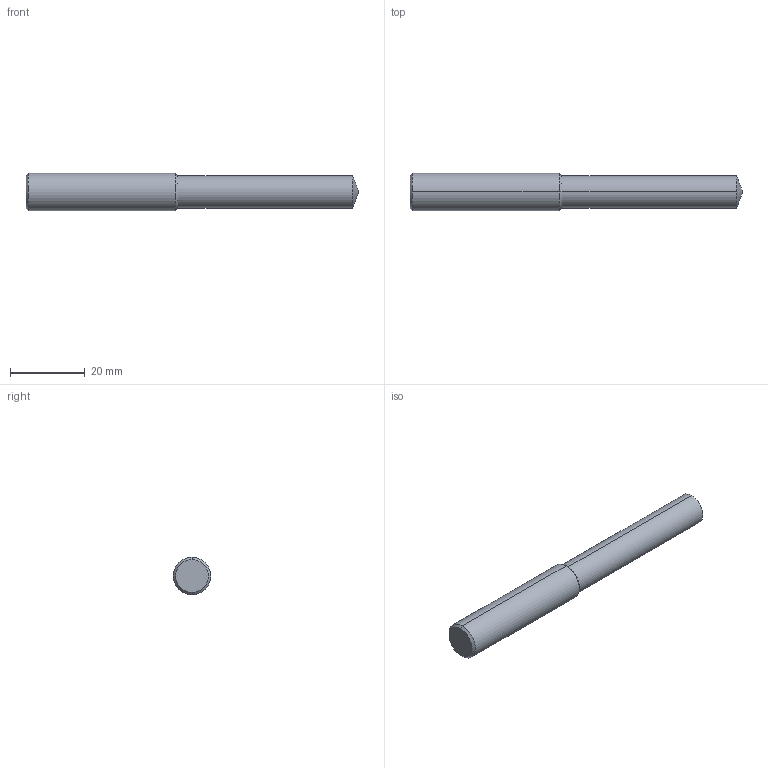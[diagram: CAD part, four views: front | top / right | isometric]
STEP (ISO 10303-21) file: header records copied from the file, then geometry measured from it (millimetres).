
FILE_DESCRIPTION (( 'STEP AP203' ), '1' );
FILE_NAME ('407014-DFX3-338A.STEP', '2024-10-02T22:10:16', ( '' ), ( '' ), 'SwSTEP 2.0', 'SolidWorks 2024', '' );
FILE_SCHEMA (( 'CONFIG_CONTROL_DESIGN' ));
Length unit declared in the file: inch
Products named in the file (1): 407014-DFX3-338A
Bounding box: 89 x 10 x 10 mm (x, y, z)
Volume: 5928.2 mm3; surface area: 2678.5 mm2
Topology: 1 solids, 1 shells, 12 faces, 22 edges, 12 vertices
Faces by surface type: cone 6, cylinder 4, plane 2
Entity records: 373 total; most frequent: DIRECTION 60, CARTESIAN_POINT 47, ORIENTED_EDGE 44, AXIS2_PLACEMENT_3D 25, EDGE_CURVE 22, FACE_OUTER_BOUND 12, ADVANCED_FACE 12, VERTEX_POINT 12
